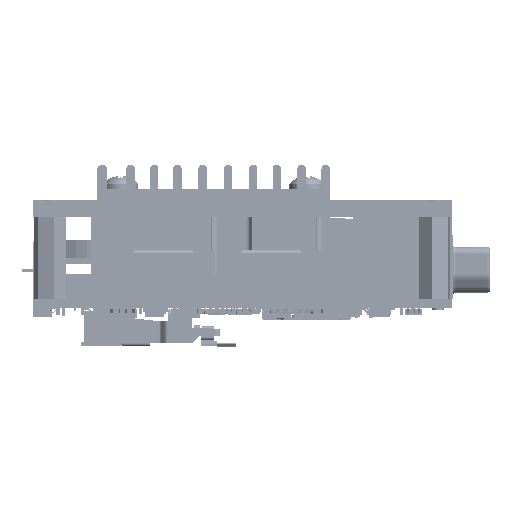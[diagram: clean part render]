
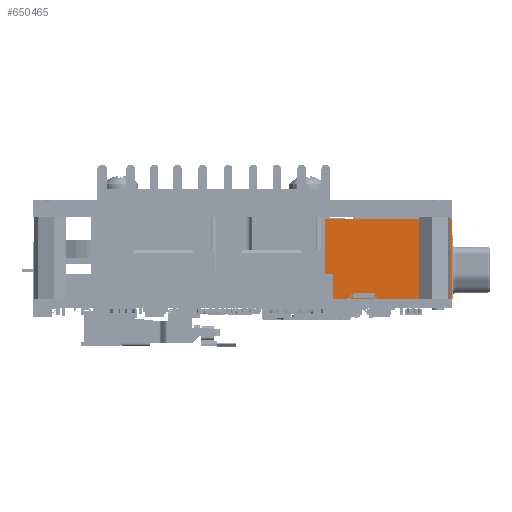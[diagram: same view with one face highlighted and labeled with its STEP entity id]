
A CAD part, left-side view. The second image highlights one B-rep face of the part: STEP entity #650465.
In plain terms, the highlighted planar face has unit normal (-1, 0, 0).
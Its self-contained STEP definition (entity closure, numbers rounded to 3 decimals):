
#26367 = VERTEX_POINT ( 'NONE', #329467 ) ;
#26371 = VERTEX_POINT ( 'NONE', #329482 ) ;
#26374 = VERTEX_POINT ( 'NONE', #329484 ) ;
#26378 = VERTEX_POINT ( 'NONE', #329502 ) ;
#52461 = ORIENTED_EDGE ( 'NONE', *, *, #174660, .T. ) ;
#52468 = ORIENTED_EDGE ( 'NONE', *, *, #174665, .F. ) ;
#52474 = ORIENTED_EDGE ( 'NONE', *, *, #174670, .F. ) ;
#52479 = ORIENTED_EDGE ( 'NONE', *, *, #174674, .T. ) ;
#87341 = LINE ( 'NONE', #93573, #87345 ) ;
#87345 = VECTOR ( 'NONE', #93577, 1000. ) ;
#87354 = LINE ( 'NONE', #93591, #87357 ) ;
#87357 = VECTOR ( 'NONE', #93594, 1000. ) ;
#87366 = LINE ( 'NONE', #93609, #87369 ) ;
#87369 = VECTOR ( 'NONE', #93612, 1000. ) ;
#87379 = LINE ( 'NONE', #93627, #87384 ) ;
#87384 = VECTOR ( 'NONE', #93631, 1000. ) ;
#93573 = CARTESIAN_POINT ( 'NONE',  ( 0., 0., 0. ) ) ;
#93577 = DIRECTION ( 'NONE',  ( 0., -1., 0. ) ) ;
#93591 = CARTESIAN_POINT ( 'NONE',  ( 0., 0., 21.84 ) ) ;
#93594 = DIRECTION ( 'NONE',  ( 0., 0., -1. ) ) ;
#93609 = CARTESIAN_POINT ( 'NONE',  ( 0., 0., 21.84 ) ) ;
#93612 = DIRECTION ( 'NONE',  ( 0., -1., 0. ) ) ;
#93627 = CARTESIAN_POINT ( 'NONE',  ( 0., 13.74, 21.84 ) ) ;
#93631 = DIRECTION ( 'NONE',  ( 0., 0., -1. ) ) ;
#174660 = EDGE_CURVE ( 'NONE', #26367, #26371, #87341, .T. ) ;
#174665 = EDGE_CURVE ( 'NONE', #26374, #26371, #87354, .T. ) ;
#174670 = EDGE_CURVE ( 'NONE', #26378, #26374, #87366, .T. ) ;
#174674 = EDGE_CURVE ( 'NONE', #26378, #26367, #87379, .T. ) ;
#206134 = EDGE_LOOP ( 'NONE', ( #52461, #52468, #52474, #52479 ) ) ;
#329467 = CARTESIAN_POINT ( 'NONE',  ( 0., 13.74, 0. ) ) ;
#329482 = CARTESIAN_POINT ( 'NONE',  ( 0., 0., 0. ) ) ;
#329484 = CARTESIAN_POINT ( 'NONE',  ( 0., 0., 21.84 ) ) ;
#329502 = CARTESIAN_POINT ( 'NONE',  ( 0., 13.74, 21.84 ) ) ;
#601728 = AXIS2_PLACEMENT_3D ( 'NONE', #628398, #628400, #628402 ) ;
#628395 = PLANE ( 'NONE',  #601728 ) ;
#628398 = CARTESIAN_POINT ( 'NONE',  ( 0., 0., 21.84 ) ) ;
#628400 = DIRECTION ( 'NONE',  ( 1., 0., 0. ) ) ;
#628402 = DIRECTION ( 'NONE',  ( 0., 0., -1. ) ) ;
#637159 = FACE_OUTER_BOUND ( 'NONE', #206134, .T. ) ;
#650465 = ADVANCED_FACE ( 'NONE', ( #637159 ), #628395, .F. ) ;
